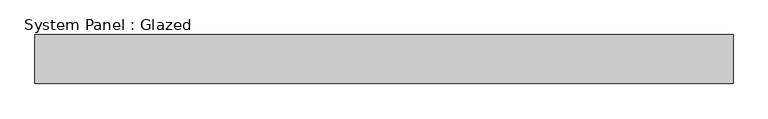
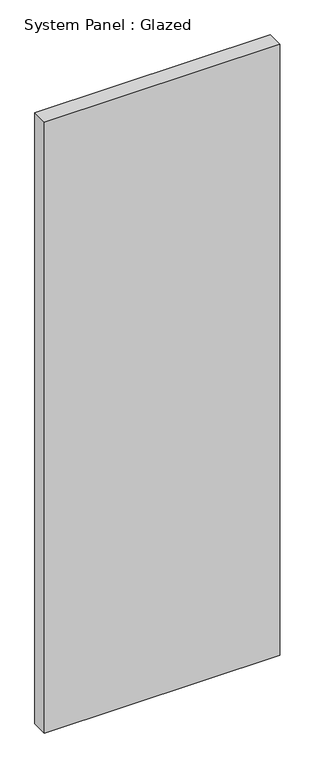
"""IFC4 building model written with IfcOpenShell, lengths in millimetres: plate geometry, System Panel : Glazed."""

from ifc_helpers import new_model, si_unit, origin, origin_with_axes, place, context, project, spatial, polyline, outline, extrude, source, transform, mapped, element, save


def system_panel_glazed_1c8c9040(model_context):
    return source(origin(), model_context, "Body", "SweptSolid", [
        extrude(outline(polyline([(711.2000001, 50.0), (-711.2000001, 50.0), (-711.2000001, 150.0), (711.2000001, 150.0), (711.2000001, 50.0)])), origin_with_axes(), (0.0, 0.0, 1.0), 3900.0),
    ])


if __name__ == "__main__":
    model = new_model("IFC4")
    model_context = context("Model", 3, world=origin())
    ifc_project = project(units=[si_unit("LENGTHUNIT", "METRE", prefix="MILLI")], contexts=[model_context])
    site = spatial("IfcSite", under=ifc_project)
    building = spatial("IfcBuilding", under=site)
    placement = place(None, origin())
    system_panel_glazed_shape = system_panel_glazed_1c8c9040(model_context)
    element("IfcPlate", 1, ObjectType="System Panel : Glazed", at=placement, inside=building, context=model_context, shape_type="MappedRepresentation", body=[
        mapped(system_panel_glazed_shape, transform((0.0, 0.0, 0.0), x_axis=(1.0, 0.0, 0.0), y_axis=(0.0, 1.0, 0.0), z_axis=(0.0, 0.0, 1.0))),
    ])
    save(model, "model.ifc")
